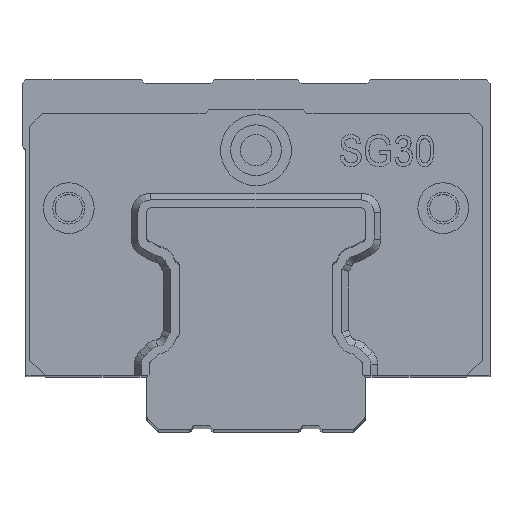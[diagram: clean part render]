
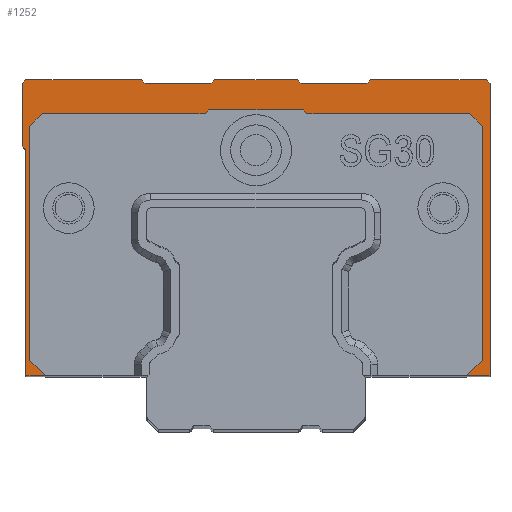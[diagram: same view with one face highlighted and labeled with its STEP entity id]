
A CAD part, top view. The second image highlights one B-rep face of the part: STEP entity #1252.
In plain terms, the highlighted planar face has unit normal (0, 0, 1).
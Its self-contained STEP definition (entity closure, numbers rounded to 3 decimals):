
#845=FACE_OUTER_BOUND('',#3479,.T.);
#1252=ADVANCED_FACE('',(#845),#1687,.F.);
#1687=PLANE('',#8824);
#1974=LINE('',#11735,#2593);
#1984=LINE('',#11756,#2603);
#1991=LINE('',#11770,#2610);
#1992=LINE('',#11773,#2611);
#1993=LINE('',#11774,#2612);
#1994=LINE('',#11776,#2613);
#1995=LINE('',#11778,#2614);
#1996=LINE('',#11780,#2615);
#1997=LINE('',#11782,#2616);
#1998=LINE('',#11784,#2617);
#1999=LINE('',#11786,#2618);
#2000=LINE('',#11788,#2619);
#2001=LINE('',#11790,#2620);
#2002=LINE('',#11792,#2621);
#2003=LINE('',#11794,#2622);
#2004=LINE('',#11796,#2623);
#2005=LINE('',#11798,#2624);
#2006=LINE('',#11800,#2625);
#2007=LINE('',#11802,#2626);
#2008=LINE('',#11803,#2627);
#2009=LINE('',#11805,#2628);
#2010=LINE('',#11807,#2629);
#2011=LINE('',#11809,#2630);
#2012=LINE('',#11811,#2631);
#2013=LINE('',#11813,#2632);
#2014=LINE('',#11815,#2633);
#2015=LINE('',#11817,#2634);
#2016=LINE('',#11819,#2635);
#2593=VECTOR('',#9724,1.);
#2603=VECTOR('',#9736,1.);
#2610=VECTOR('',#9745,1.);
#2611=VECTOR('',#9746,1.);
#2612=VECTOR('',#9747,1.);
#2613=VECTOR('',#9748,1.);
#2614=VECTOR('',#9749,1.);
#2615=VECTOR('',#9750,1.);
#2616=VECTOR('',#9751,1.);
#2617=VECTOR('',#9752,1.);
#2618=VECTOR('',#9753,1.);
#2619=VECTOR('',#9754,1.);
#2620=VECTOR('',#9755,1.);
#2621=VECTOR('',#9756,1.);
#2622=VECTOR('',#9757,1.);
#2623=VECTOR('',#9758,1.);
#2624=VECTOR('',#9759,1.);
#2625=VECTOR('',#9760,1.);
#2626=VECTOR('',#9761,1.);
#2627=VECTOR('',#9762,1.);
#2628=VECTOR('',#9763,1.);
#2629=VECTOR('',#9764,1.);
#2630=VECTOR('',#9765,1.);
#2631=VECTOR('',#9766,1.);
#2632=VECTOR('',#9767,1.);
#2633=VECTOR('',#9768,1.);
#2634=VECTOR('',#9769,1.);
#2635=VECTOR('',#9770,1.);
#3479=EDGE_LOOP('',(#4355,#4356,#4357,#4358,#4359,#4360,#4361,#4362,#4363,
#4364,#4365,#4366,#4367,#4368,#4369,#4370,#4371,#4372,#4373,#4374,#4375,
#4376,#4377,#4378,#4379,#4380,#4381,#4382));
#4355=ORIENTED_EDGE('',*,*,#7402,.T.);
#4356=ORIENTED_EDGE('',*,*,#7403,.T.);
#4357=ORIENTED_EDGE('',*,*,#7385,.T.);
#4358=ORIENTED_EDGE('',*,*,#7404,.T.);
#4359=ORIENTED_EDGE('',*,*,#7405,.T.);
#4360=ORIENTED_EDGE('',*,*,#7406,.T.);
#4361=ORIENTED_EDGE('',*,*,#7407,.T.);
#4362=ORIENTED_EDGE('',*,*,#7408,.T.);
#4363=ORIENTED_EDGE('',*,*,#7409,.T.);
#4364=ORIENTED_EDGE('',*,*,#7410,.T.);
#4365=ORIENTED_EDGE('',*,*,#7411,.T.);
#4366=ORIENTED_EDGE('',*,*,#7412,.T.);
#4367=ORIENTED_EDGE('',*,*,#7413,.T.);
#4368=ORIENTED_EDGE('',*,*,#7414,.T.);
#4369=ORIENTED_EDGE('',*,*,#7415,.T.);
#4370=ORIENTED_EDGE('',*,*,#7416,.T.);
#4371=ORIENTED_EDGE('',*,*,#7417,.T.);
#4372=ORIENTED_EDGE('',*,*,#7418,.F.);
#4373=ORIENTED_EDGE('',*,*,#7395,.T.);
#4374=ORIENTED_EDGE('',*,*,#7419,.T.);
#4375=ORIENTED_EDGE('',*,*,#7420,.T.);
#4376=ORIENTED_EDGE('',*,*,#7421,.T.);
#4377=ORIENTED_EDGE('',*,*,#7422,.T.);
#4378=ORIENTED_EDGE('',*,*,#7423,.F.);
#4379=ORIENTED_EDGE('',*,*,#7424,.F.);
#4380=ORIENTED_EDGE('',*,*,#7425,.F.);
#4381=ORIENTED_EDGE('',*,*,#7426,.T.);
#4382=ORIENTED_EDGE('',*,*,#7427,.T.);
#6499=VERTEX_POINT('',#11734);
#6500=VERTEX_POINT('',#11736);
#6509=VERTEX_POINT('',#11755);
#6510=VERTEX_POINT('',#11757);
#6516=VERTEX_POINT('',#11771);
#6517=VERTEX_POINT('',#11772);
#6518=VERTEX_POINT('',#11775);
#6519=VERTEX_POINT('',#11777);
#6520=VERTEX_POINT('',#11779);
#6521=VERTEX_POINT('',#11781);
#6522=VERTEX_POINT('',#11783);
#6523=VERTEX_POINT('',#11785);
#6524=VERTEX_POINT('',#11787);
#6525=VERTEX_POINT('',#11789);
#6526=VERTEX_POINT('',#11791);
#6527=VERTEX_POINT('',#11793);
#6528=VERTEX_POINT('',#11795);
#6529=VERTEX_POINT('',#11797);
#6530=VERTEX_POINT('',#11799);
#6531=VERTEX_POINT('',#11801);
#6532=VERTEX_POINT('',#11804);
#6533=VERTEX_POINT('',#11806);
#6534=VERTEX_POINT('',#11808);
#6535=VERTEX_POINT('',#11810);
#6536=VERTEX_POINT('',#11812);
#6537=VERTEX_POINT('',#11814);
#6538=VERTEX_POINT('',#11816);
#6539=VERTEX_POINT('',#11818);
#7385=EDGE_CURVE('',#6500,#6499,#1974,.T.);
#7395=EDGE_CURVE('',#6510,#6509,#1984,.T.);
#7402=EDGE_CURVE('',#6516,#6517,#1991,.T.);
#7403=EDGE_CURVE('',#6517,#6500,#1992,.T.);
#7404=EDGE_CURVE('',#6499,#6518,#1993,.T.);
#7405=EDGE_CURVE('',#6518,#6519,#1994,.T.);
#7406=EDGE_CURVE('',#6519,#6520,#1995,.T.);
#7407=EDGE_CURVE('',#6520,#6521,#1996,.T.);
#7408=EDGE_CURVE('',#6521,#6522,#1997,.T.);
#7409=EDGE_CURVE('',#6522,#6523,#1998,.T.);
#7410=EDGE_CURVE('',#6523,#6524,#1999,.T.);
#7411=EDGE_CURVE('',#6524,#6525,#2000,.T.);
#7412=EDGE_CURVE('',#6525,#6526,#2001,.T.);
#7413=EDGE_CURVE('',#6526,#6527,#2002,.T.);
#7414=EDGE_CURVE('',#6527,#6528,#2003,.T.);
#7415=EDGE_CURVE('',#6528,#6529,#2004,.T.);
#7416=EDGE_CURVE('',#6529,#6530,#2005,.T.);
#7417=EDGE_CURVE('',#6530,#6531,#2006,.T.);
#7418=EDGE_CURVE('',#6510,#6531,#2007,.T.);
#7419=EDGE_CURVE('',#6509,#6532,#2008,.T.);
#7420=EDGE_CURVE('',#6532,#6533,#2009,.T.);
#7421=EDGE_CURVE('',#6533,#6534,#2010,.T.);
#7422=EDGE_CURVE('',#6534,#6535,#2011,.T.);
#7423=EDGE_CURVE('',#6536,#6535,#2012,.T.);
#7424=EDGE_CURVE('',#6537,#6536,#2013,.T.);
#7425=EDGE_CURVE('',#6538,#6537,#2014,.T.);
#7426=EDGE_CURVE('',#6538,#6539,#2015,.T.);
#7427=EDGE_CURVE('',#6539,#6516,#2016,.T.);
#8824=AXIS2_PLACEMENT_3D('',#11820,#9771,#9772);
#9724=DIRECTION('',(1.,0.,0.));
#9736=DIRECTION('',(1.,0.,0.));
#9745=DIRECTION('',(0.,-1.,0.));
#9746=DIRECTION('',(-0.707,-0.707,0.));
#9747=DIRECTION('',(0.,1.,0.));
#9748=DIRECTION('',(-0.707,0.707,0.));
#9749=DIRECTION('',(-1.,0.,0.));
#9750=DIRECTION('',(-0.707,-0.707,0.));
#9751=DIRECTION('',(-1.,0.,0.));
#9752=DIRECTION('',(-0.707,0.707,0.));
#9753=DIRECTION('',(-1.,0.,0.));
#9754=DIRECTION('',(-0.707,-0.707,0.));
#9755=DIRECTION('',(-1.,0.,0.));
#9756=DIRECTION('',(-0.707,0.707,0.));
#9757=DIRECTION('',(-1.,0.,0.));
#9758=DIRECTION('',(-0.707,-0.707,0.));
#9759=DIRECTION('',(0.,-1.,0.));
#9760=DIRECTION('',(0.707,-0.707,0.));
#9761=DIRECTION('',(0.,1.,0.));
#9762=DIRECTION('',(-0.707,0.707,0.));
#9763=DIRECTION('',(0.,1.,0.));
#9764=DIRECTION('',(0.707,0.707,0.));
#9765=DIRECTION('',(1.,0.,0.));
#9766=DIRECTION('',(-0.707,-0.707,0.));
#9767=DIRECTION('',(-1.,0.,0.));
#9768=DIRECTION('',(-0.707,0.707,0.));
#9769=DIRECTION('',(1.,0.,0.));
#9770=DIRECTION('',(0.707,-0.707,0.));
#9771=DIRECTION('',(0.,0.,-1.));
#9772=DIRECTION('',(1.,0.,0.));
#11734=CARTESIAN_POINT('',(20.59,-12.975,233.189));
#11735=CARTESIAN_POINT('',(-38.91,-12.975,233.189));
#11736=CARTESIAN_POINT('',(17.589,-12.975,233.189));
#11755=CARTESIAN_POINT('',(-36.408,-12.975,233.189));
#11756=CARTESIAN_POINT('',(-38.91,-12.975,233.189));
#11757=CARTESIAN_POINT('',(-38.91,-12.975,233.189));
#11770=CARTESIAN_POINT('',(19.59,-14.725,233.189));
#11771=CARTESIAN_POINT('',(19.59,19.026,233.189));
#11772=CARTESIAN_POINT('',(19.59,-10.974,233.189));
#11773=CARTESIAN_POINT('',(27.965,-2.599,233.189));
#11774=CARTESIAN_POINT('',(20.59,-12.975,233.189));
#11775=CARTESIAN_POINT('',(20.59,24.525,233.189));
#11776=CARTESIAN_POINT('',(20.59,24.525,233.189));
#11777=CARTESIAN_POINT('',(20.09,25.025,233.189));
#11778=CARTESIAN_POINT('',(20.09,25.025,233.189));
#11779=CARTESIAN_POINT('',(5.29,25.025,233.189));
#11780=CARTESIAN_POINT('',(5.29,25.025,233.189));
#11781=CARTESIAN_POINT('',(4.79,24.525,233.189));
#11782=CARTESIAN_POINT('',(4.79,24.525,233.189));
#11783=CARTESIAN_POINT('',(-3.61,24.525,233.189));
#11784=CARTESIAN_POINT('',(-3.61,24.525,233.189));
#11785=CARTESIAN_POINT('',(-4.11,25.025,233.189));
#11786=CARTESIAN_POINT('',(-4.11,25.025,233.189));
#11787=CARTESIAN_POINT('',(-14.71,25.025,233.189));
#11788=CARTESIAN_POINT('',(-14.71,25.025,233.189));
#11789=CARTESIAN_POINT('',(-15.21,24.525,233.189));
#11790=CARTESIAN_POINT('',(-15.21,24.525,233.189));
#11791=CARTESIAN_POINT('',(-23.61,24.525,233.189));
#11792=CARTESIAN_POINT('',(-23.61,24.525,233.189));
#11793=CARTESIAN_POINT('',(-24.11,25.025,233.189));
#11794=CARTESIAN_POINT('',(-24.11,25.025,233.189));
#11795=CARTESIAN_POINT('',(-38.91,25.025,233.189));
#11796=CARTESIAN_POINT('',(-38.91,25.025,233.189));
#11797=CARTESIAN_POINT('',(-39.41,24.525,233.189));
#11798=CARTESIAN_POINT('',(-39.41,24.525,233.189));
#11799=CARTESIAN_POINT('',(-39.41,16.525,233.189));
#11800=CARTESIAN_POINT('',(-39.41,16.525,233.189));
#11801=CARTESIAN_POINT('',(-38.91,16.025,233.189));
#11802=CARTESIAN_POINT('',(-38.91,-12.975,233.189));
#11803=CARTESIAN_POINT('',(2.717,-52.099,233.189));
#11804=CARTESIAN_POINT('',(-38.41,-10.974,233.189));
#11805=CARTESIAN_POINT('',(-38.41,-14.725,233.189));
#11806=CARTESIAN_POINT('',(-38.41,19.026,233.189));
#11807=CARTESIAN_POINT('',(-16.035,41.401,233.189));
#11808=CARTESIAN_POINT('',(-36.826,20.61,233.189));
#11809=CARTESIAN_POINT('',(40.09,20.61,233.189));
#11810=CARTESIAN_POINT('',(-15.944,20.61,233.189));
#11811=CARTESIAN_POINT('',(-5.595,30.96,233.189));
#11812=CARTESIAN_POINT('',(-15.444,21.11,233.189));
#11813=CARTESIAN_POINT('',(40.09,21.11,233.189));
#11814=CARTESIAN_POINT('',(-3.375,21.11,233.189));
#11815=CARTESIAN_POINT('',(36.275,-18.541,233.189));
#11816=CARTESIAN_POINT('',(-2.875,20.61,233.189));
#11817=CARTESIAN_POINT('',(40.091,20.609,233.189));
#11818=CARTESIAN_POINT('',(18.007,20.61,233.189));
#11819=CARTESIAN_POINT('',(46.716,-8.1,233.189));
#11820=CARTESIAN_POINT('',(23.59,-14.875,233.189));
